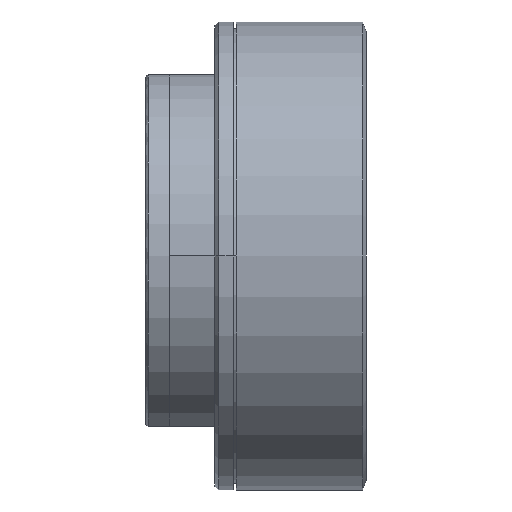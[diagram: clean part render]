
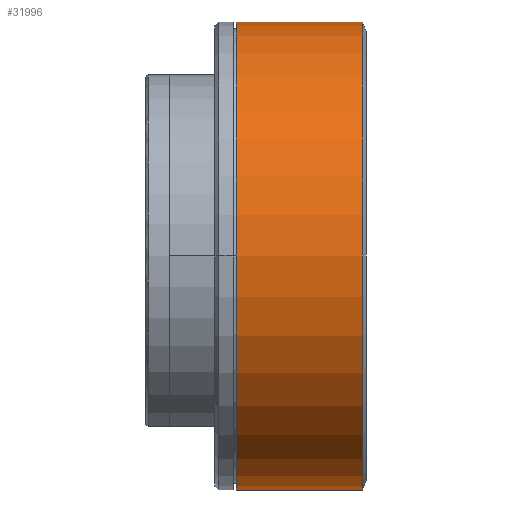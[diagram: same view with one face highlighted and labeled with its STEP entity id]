
A CAD part, front view. The second image highlights one B-rep face of the part: STEP entity #31996.
In plain terms, the highlighted cylindrical face has radius 44.5 mm (diameter 89 mm), a partial arc.
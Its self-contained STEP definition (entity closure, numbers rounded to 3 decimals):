
#1037 = CARTESIAN_POINT ( 'NONE',  ( -0.728, 0., 44.5 ) ) ;
#3494 = EDGE_CURVE ( 'NONE', #36312, #34523, #72833, .T. ) ;
#6139 = CARTESIAN_POINT ( 'NONE',  ( -0.728, 0., 0. ) ) ;
#6707 = DIRECTION ( 'NONE',  ( 0., 0., 1. ) ) ;
#8753 = CARTESIAN_POINT ( 'NONE',  ( -24.8, 0., 44.5 ) ) ;
#9443 = CARTESIAN_POINT ( 'NONE',  ( 70.332, 0., 44.5 ) ) ;
#14901 = EDGE_LOOP ( 'NONE', ( #35325, #27847, #45407, #48192 ) ) ;
#16552 = VECTOR ( 'NONE', #49609, 1000. ) ;
#20859 = DIRECTION ( 'NONE',  ( 0., 0., -1. ) ) ;
#21221 = DIRECTION ( 'NONE',  ( 1., 0., 0. ) ) ;
#21238 = CYLINDRICAL_SURFACE ( 'NONE', #38968, 44.5 ) ;
#21376 = LINE ( 'NONE', #66205, #16552 ) ;
#21377 = VECTOR ( 'NONE', #21221, 1000. ) ;
#23909 = EDGE_CURVE ( 'NONE', #57273, #36312, #72172, .T. ) ;
#27847 = ORIENTED_EDGE ( 'NONE', *, *, #23909, .F. ) ;
#31996 = ADVANCED_FACE ( 'NONE', ( #44918 ), #21238, .T. ) ;
#33256 = DIRECTION ( 'NONE',  ( 1., 0., 0. ) ) ;
#34523 = VERTEX_POINT ( 'NONE', #1037 ) ;
#35016 = VERTEX_POINT ( 'NONE', #41238 ) ;
#35043 = EDGE_CURVE ( 'NONE', #35016, #34523, #44284, .T. ) ;
#35325 = ORIENTED_EDGE ( 'NONE', *, *, #3494, .F. ) ;
#36312 = VERTEX_POINT ( 'NONE', #8753 ) ;
#38968 = AXIS2_PLACEMENT_3D ( 'NONE', #67166, #33256, #20859 ) ;
#41073 = CARTESIAN_POINT ( 'NONE',  ( -24.8, 0., 0. ) ) ;
#41238 = CARTESIAN_POINT ( 'NONE',  ( -0.728, 0., -44.5 ) ) ;
#44284 = CIRCLE ( 'NONE', #64810, 44.5 ) ;
#44918 = FACE_OUTER_BOUND ( 'NONE', #14901, .T. ) ;
#45407 = ORIENTED_EDGE ( 'NONE', *, *, #45537, .T. ) ;
#45537 = EDGE_CURVE ( 'NONE', #57273, #35016, #21376, .T. ) ;
#47245 = DIRECTION ( 'NONE',  ( -1., 0., 0. ) ) ;
#48192 = ORIENTED_EDGE ( 'NONE', *, *, #35043, .T. ) ;
#49609 = DIRECTION ( 'NONE',  ( 1., 0., 0. ) ) ;
#52910 = AXIS2_PLACEMENT_3D ( 'NONE', #41073, #58394, #6707 ) ;
#57273 = VERTEX_POINT ( 'NONE', #63905 ) ;
#58394 = DIRECTION ( 'NONE',  ( -1., 0., 0. ) ) ;
#63836 = DIRECTION ( 'NONE',  ( 0., 0., 1. ) ) ;
#63905 = CARTESIAN_POINT ( 'NONE',  ( -24.8, 0., -44.5 ) ) ;
#64810 = AXIS2_PLACEMENT_3D ( 'NONE', #6139, #47245, #63836 ) ;
#66205 = CARTESIAN_POINT ( 'NONE',  ( 70.332, 0., -44.5 ) ) ;
#67166 = CARTESIAN_POINT ( 'NONE',  ( 70.332, 0., 0. ) ) ;
#72172 = CIRCLE ( 'NONE', #52910, 44.5 ) ;
#72833 = LINE ( 'NONE', #9443, #21377 ) ;
